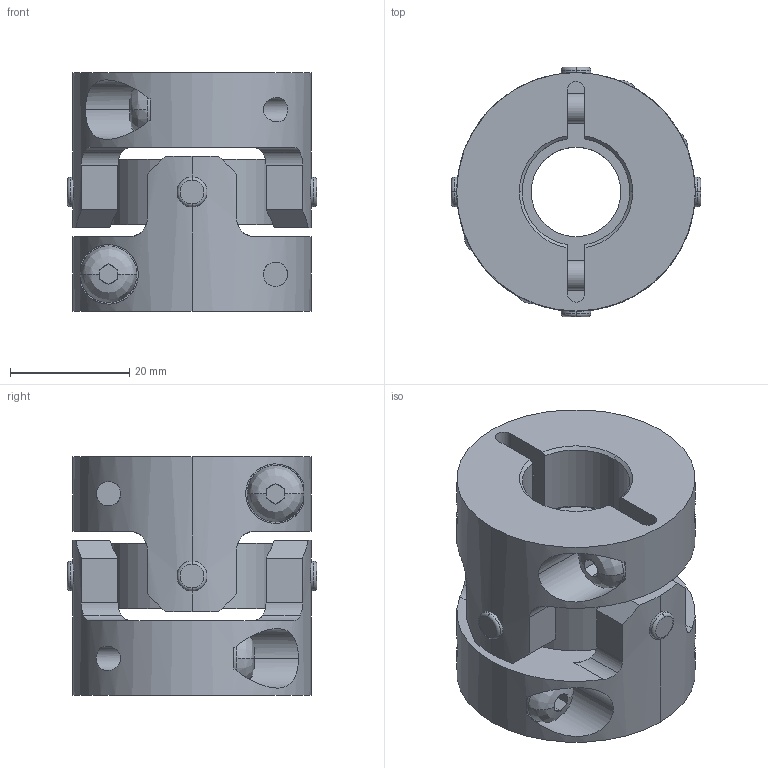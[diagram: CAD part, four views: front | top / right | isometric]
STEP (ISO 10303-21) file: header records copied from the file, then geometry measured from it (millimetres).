
FILE_DESCRIPTION((''),'2;1');
FILE_NAME('UA-40C-17×18.stp','2013-11-19T08:29:12',(''),(''),'AutoCAD STEP 2000i','AutoCAD 2000i',', , ');
FILE_SCHEMA(('CONFIG_CONTROL_DESIGN'));
Length unit declared in the file: millimetre
Products named in the file (8): UA-40C-18×18; 忣兜1; UA-4002-D18-1; BTN-M5; UA-4002-D18; UA-4002-D08-1; UA-4002-D08; UA40-SEN
Assembly tree (10 placements, depth 3):
  UA-40C-18×18
    忣兜1
    UA-4002-D18-1
      BTN-M5
    UA-4002-D18
      BTN-M5
    UA-4002-D08-1
      BTN-M5
    UA-4002-D08
      BTN-M5
    UA40-SEN
Bounding box: 41.81 x 41.81 x 40 mm (x, y, z)
Volume: 32009.3 mm3; surface area: 14796.4 mm2
Topology: 1 solids, 1 shells, 254 faces, 662 edges, 416 vertices
Faces by surface type: plane 126, cylinder 96, cone 16, bspline 8, torus 8
Entity records: 9783 total; most frequent: CARTESIAN_POINT 3355, DIRECTION 1328, ORIENTED_EDGE 1324, EDGE_CURVE 662, AXIS2_PLACEMENT_3D 513, VERTEX_POINT 416, VECTOR 302, LINE 302
